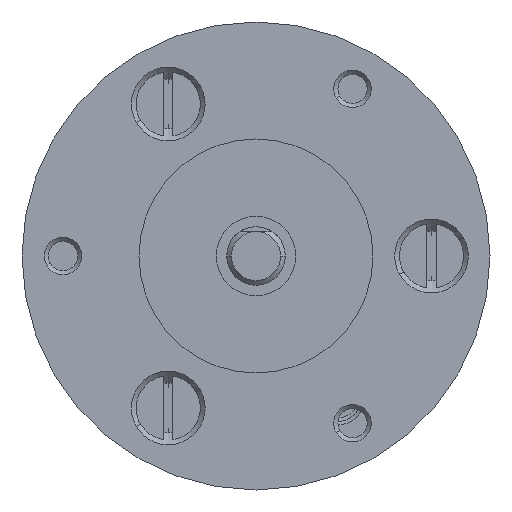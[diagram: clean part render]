
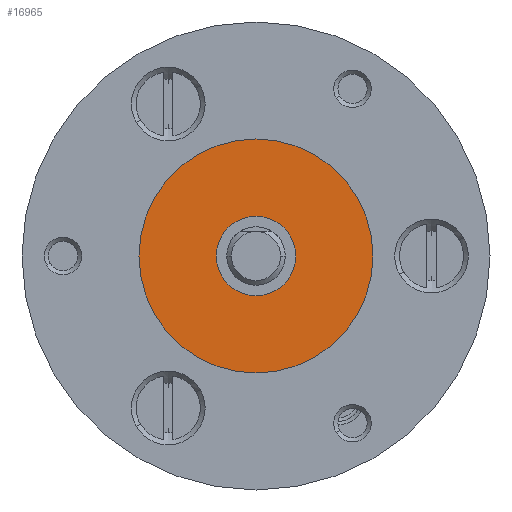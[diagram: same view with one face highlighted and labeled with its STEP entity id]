
A CAD part, left-side view. The second image highlights one B-rep face of the part: STEP entity #16965.
In plain terms, the highlighted planar face has unit normal (-1, 0, 0).
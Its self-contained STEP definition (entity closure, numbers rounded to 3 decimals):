
#5425 = CARTESIAN_POINT ( 'NONE',  ( -55.711, 13.775, -5. ) ) ;
#5451 = CARTESIAN_POINT ( 'NONE',  ( -55.711, -3.545, 5. ) ) ;
#5452 = DIRECTION ( 'NONE',  ( 0., -0.866, 0.5 ) ) ;
#5453 = DIRECTION ( 'NONE',  ( -1., 0., 0. ) ) ;
#5454 = AXIS2_PLACEMENT_3D ( 'NONE', #5460, #5453, #5452 ) ;
#5455 = CIRCLE ( 'NONE', #5454, 10. ) ;
#5460 = CARTESIAN_POINT ( 'NONE',  ( -55.711, 5.115, 0. ) ) ;
#5555 = DIRECTION ( 'NONE',  ( 0., -0.866, 0.5 ) ) ;
#5556 = DIRECTION ( 'NONE',  ( -1., 0., 0. ) ) ;
#5557 = CARTESIAN_POINT ( 'NONE',  ( -55.711, 5.115, 0. ) ) ;
#5558 = AXIS2_PLACEMENT_3D ( 'NONE', #5557, #5556, #5555 ) ;
#5559 = CIRCLE ( 'NONE', #5558, 3.4 ) ;
#5622 = CARTESIAN_POINT ( 'NONE',  ( -55.711, 2.17, 1.7 ) ) ;
#5623 = DIRECTION ( 'NONE',  ( 0., -0.866, 0.5 ) ) ;
#5624 = DIRECTION ( 'NONE',  ( -1., 0., 0. ) ) ;
#5625 = CARTESIAN_POINT ( 'NONE',  ( -55.711, 5.115, 0. ) ) ;
#5626 = AXIS2_PLACEMENT_3D ( 'NONE', #5625, #5624, #5623 ) ;
#5627 = CIRCLE ( 'NONE', #5626, 3.4 ) ;
#5629 = CARTESIAN_POINT ( 'NONE',  ( -55.711, 8.059, -1.7 ) ) ;
#5661 = DIRECTION ( 'NONE',  ( 0., 0.866, -0.5 ) ) ;
#5662 = DIRECTION ( 'NONE',  ( 1., 0., 0. ) ) ;
#5663 = CARTESIAN_POINT ( 'NONE',  ( -55.711, 10.115, 8.66 ) ) ;
#5664 = AXIS2_PLACEMENT_3D ( 'NONE', #5663, #5662, #5661 ) ;
#5665 = PLANE ( 'NONE',  #5664 ) ;
#5680 = FACE_OUTER_BOUND ( 'NONE', #16972, .T. ) ;
#5681 = FACE_BOUND ( 'NONE', #16966, .T. ) ;
#5701 = DIRECTION ( 'NONE',  ( 0., -0.866, 0.5 ) ) ;
#5702 = DIRECTION ( 'NONE',  ( -1., 0., 0. ) ) ;
#5703 = AXIS2_PLACEMENT_3D ( 'NONE', #5711, #5702, #5701 ) ;
#5704 = CIRCLE ( 'NONE', #5703, 10. ) ;
#5711 = CARTESIAN_POINT ( 'NONE',  ( -55.711, 5.115, 0. ) ) ;
#16900 = VERTEX_POINT ( 'NONE', #5425 ) ;
#16905 = EDGE_CURVE ( 'NONE', #16907, #16900, #5455, .T. ) ;
#16907 = VERTEX_POINT ( 'NONE', #5451 ) ;
#16939 = EDGE_CURVE ( 'NONE', #16957, #16952, #5559, .T. ) ;
#16952 = VERTEX_POINT ( 'NONE', #5629 ) ;
#16955 = EDGE_CURVE ( 'NONE', #16952, #16957, #5627, .T. ) ;
#16957 = VERTEX_POINT ( 'NONE', #5622 ) ;
#16965 = ADVANCED_FACE ( 'NONE', ( #5681, #5680 ), #5665, .F. ) ;
#16966 = EDGE_LOOP ( 'NONE', ( #16968, #16971 ) ) ;
#16968 = ORIENTED_EDGE ( 'NONE', *, *, #16939, .F. ) ;
#16971 = ORIENTED_EDGE ( 'NONE', *, *, #16955, .F. ) ;
#16972 = EDGE_LOOP ( 'NONE', ( #16976, #16978 ) ) ;
#16976 = ORIENTED_EDGE ( 'NONE', *, *, #16905, .T. ) ;
#16978 = ORIENTED_EDGE ( 'NONE', *, *, #16980, .T. ) ;
#16980 = EDGE_CURVE ( 'NONE', #16900, #16907, #5704, .T. ) ;
